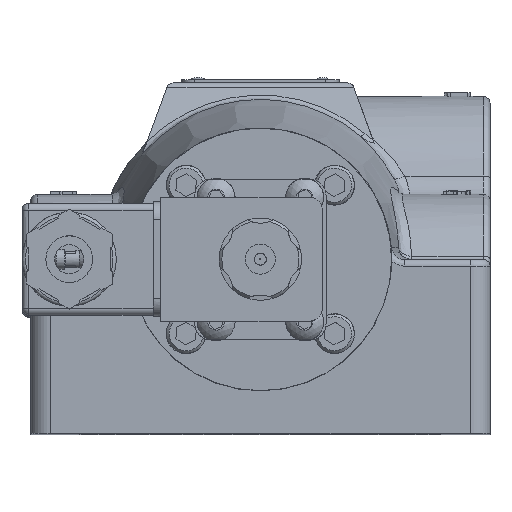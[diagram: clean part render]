
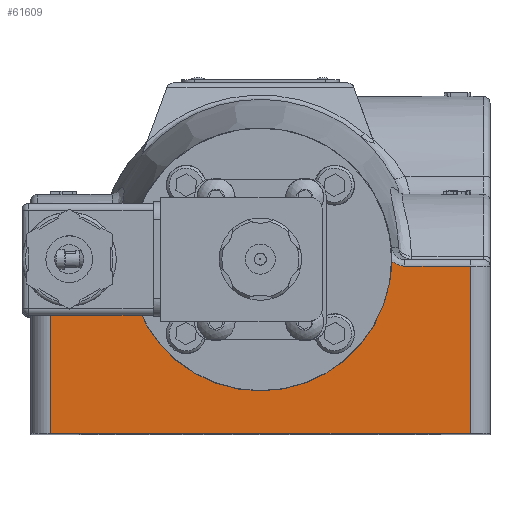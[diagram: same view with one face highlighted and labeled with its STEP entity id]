
A CAD part, top view. The second image highlights one B-rep face of the part: STEP entity #61609.
In plain terms, the highlighted planar face has unit normal (0, 0, 1).
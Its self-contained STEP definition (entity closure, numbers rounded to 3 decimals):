
#1291=B_SPLINE_CURVE_WITH_KNOTS('',3,(#101644,#101645,#101646,#101647,#101648),
 .UNSPECIFIED.,.F.,.F.,(4,1,4),(0.,0.291,0.347),
 .UNSPECIFIED.);
#1299=B_SPLINE_CURVE_WITH_KNOTS('',3,(#101834,#101835,#101836,#101837),
 .UNSPECIFIED.,.F.,.F.,(4,4),(0.356,0.703),
 .UNSPECIFIED.);
#3445=PLANE('',#66509);
#5963=FACE_OUTER_BOUND('',#9681,.T.);
#9681=EDGE_LOOP('',(#45954,#45955,#45956,#45957,#45958,#45959,#45960,#45961));
#13292=CIRCLE('',#66358,3.178);
#16452=LINE('',#96808,#20689);
#16462=LINE('',#96856,#20699);
#16619=LINE('',#101538,#20856);
#16621=LINE('',#101712,#20858);
#16629=LINE('',#101961,#20866);
#20689=VECTOR('',#75603,1.);
#20699=VECTOR('',#75637,1.);
#20856=VECTOR('',#76978,1.);
#20858=VECTOR('',#76986,1.);
#20866=VECTOR('',#77084,1.);
#25404=VERTEX_POINT('',#96793);
#25411=VERTEX_POINT('',#96806);
#25428=VERTEX_POINT('',#96855);
#25753=VERTEX_POINT('',#101534);
#25757=VERTEX_POINT('',#101616);
#25762=VERTEX_POINT('',#101705);
#25765=VERTEX_POINT('',#101710);
#25790=VERTEX_POINT('',#101829);
#31902=EDGE_CURVE('',#25411,#25404,#16452,.T.);
#31922=EDGE_CURVE('',#25404,#25428,#16462,.T.);
#32611=EDGE_CURVE('',#25428,#25753,#16619,.T.);
#32616=EDGE_CURVE('',#25753,#25757,#1291,.T.);
#32625=EDGE_CURVE('',#25765,#25762,#16621,.T.);
#32663=EDGE_CURVE('',#25790,#25765,#1299,.T.);
#32675=EDGE_CURVE('',#25762,#25411,#16629,.T.);
#32738=EDGE_CURVE('',#25757,#25790,#13292,.T.);
#45954=ORIENTED_EDGE('',*,*,#31902,.F.);
#45955=ORIENTED_EDGE('',*,*,#32675,.F.);
#45956=ORIENTED_EDGE('',*,*,#32625,.F.);
#45957=ORIENTED_EDGE('',*,*,#32663,.F.);
#45958=ORIENTED_EDGE('',*,*,#32738,.F.);
#45959=ORIENTED_EDGE('',*,*,#32616,.F.);
#45960=ORIENTED_EDGE('',*,*,#32611,.F.);
#45961=ORIENTED_EDGE('',*,*,#31922,.F.);
#61609=ADVANCED_FACE('',(#5963),#3445,.T.);
#66358=AXIS2_PLACEMENT_3D('',#102614,#77158,#77159);
#66509=AXIS2_PLACEMENT_3D('',#117710,#77688,#77689);
#75603=DIRECTION('',(-1.,0.,0.));
#75637=DIRECTION('',(0.,1.,0.));
#76978=DIRECTION('',(1.,0.,0.));
#76986=DIRECTION('',(1.,0.,0.));
#77084=DIRECTION('',(0.,-1.,0.));
#77158=DIRECTION('center_axis',(0.,0.,1.));
#77159=DIRECTION('ref_axis',(-1.,0.,0.));
#77688=DIRECTION('center_axis',(0.,0.,1.));
#77689=DIRECTION('ref_axis',(1.,0.,0.));
#96793=CARTESIAN_POINT('',(-5.08,-4.206,8.652));
#96806=CARTESIAN_POINT('',(5.08,-4.206,8.652));
#96808=CARTESIAN_POINT('',(0.,-4.206,8.652));
#96855=CARTESIAN_POINT('',(-5.08,-0.159,8.652));
#96856=CARTESIAN_POINT('',(-5.08,-3.215,8.652));
#101534=CARTESIAN_POINT('',(-3.497,-0.159,8.652));
#101538=CARTESIAN_POINT('',(0.,-0.159,8.652));
#101616=CARTESIAN_POINT('',(-3.177,-0.037,8.652));
#101644=CARTESIAN_POINT('Ctrl Pts',(-3.497,-0.159,
8.652));
#101645=CARTESIAN_POINT('Ctrl Pts',(-3.4,-0.159,
8.652));
#101646=CARTESIAN_POINT('Ctrl Pts',(-3.283,-0.122,
8.652));
#101647=CARTESIAN_POINT('Ctrl Pts',(-3.192,-0.05,
8.652));
#101648=CARTESIAN_POINT('Ctrl Pts',(-3.178,-0.037,
8.652));
#101705=CARTESIAN_POINT('',(5.08,-0.159,8.652));
#101710=CARTESIAN_POINT('',(3.497,-0.159,8.652));
#101712=CARTESIAN_POINT('',(0.,-0.159,8.652));
#101829=CARTESIAN_POINT('',(3.177,-0.037,8.652));
#101834=CARTESIAN_POINT('Ctrl Pts',(3.178,-0.037,
8.652));
#101835=CARTESIAN_POINT('Ctrl Pts',(3.265,-0.114,
8.652));
#101836=CARTESIAN_POINT('Ctrl Pts',(3.381,-0.159,
8.652));
#101837=CARTESIAN_POINT('Ctrl Pts',(3.497,-0.159,
8.652));
#101961=CARTESIAN_POINT('',(5.08,-3.215,8.652));
#102614=CARTESIAN_POINT('Origin',(0.,0.,8.652));
#117710=CARTESIAN_POINT('Origin',(0.,-4.286,8.652));
